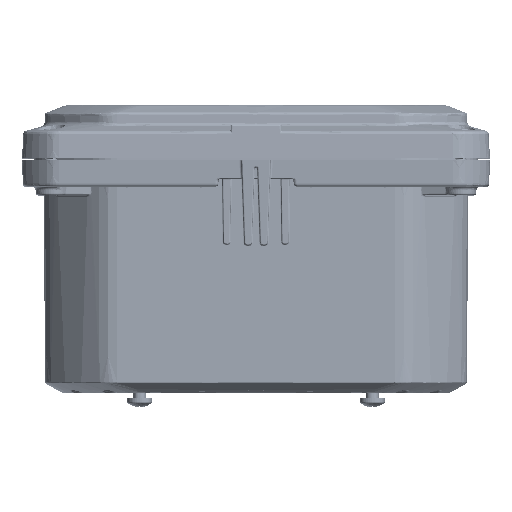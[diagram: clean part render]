
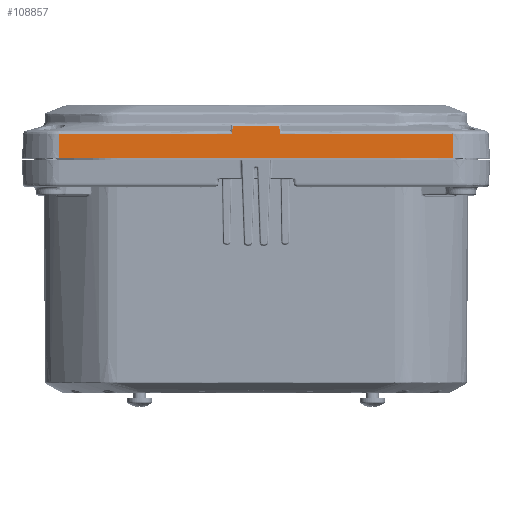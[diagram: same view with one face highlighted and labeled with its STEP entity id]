
A CAD part, top view. The second image highlights one B-rep face of the part: STEP entity #108857.
In plain terms, the highlighted planar face has unit normal (0, 0.052, 0.999).
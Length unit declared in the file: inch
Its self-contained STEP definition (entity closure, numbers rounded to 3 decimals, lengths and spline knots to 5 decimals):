
#3084 = VERTEX_POINT ( 'NONE', #12428 ) ;
#8328 = DIRECTION ( 'NONE',  ( 1., 0., 0. ) ) ;
#8854 = VERTEX_POINT ( 'NONE', #58254 ) ;
#10427 = DIRECTION ( 'NONE',  ( 0., -0.999, 0.052 ) ) ;
#12428 = CARTESIAN_POINT ( 'NONE',  ( -2.95755, 0.36394, 2.50093 ) ) ;
#12579 = B_SPLINE_CURVE_WITH_KNOTS ( 'NONE', 3,
 ( #198560, #166749, #34033, #164643, #167784, #132795, #98827, #100947, #130685, #70114, #36165, #180535, #19186, #197502, #148713 ),
 .UNSPECIFIED., .F., .F.,
 ( 4, 2, 2, 2, 1, 2, 2, 4 ),
 ( 0.00907, 0.0421, 0.05861, 0.06687, 0.07099, 0.07306, 0.07409, 0.07512 ),
 .UNSPECIFIED. ) ;
#17329 = VERTEX_POINT ( 'NONE', #113791 ) ;
#17924 = EDGE_CURVE ( 'NONE', #17329, #205260, #70998, .T. ) ;
#19186 = CARTESIAN_POINT ( 'NONE',  ( -2.93047, 0.36465, 2.50089 ) ) ;
#25170 = CARTESIAN_POINT ( 'NONE',  ( 2.95755, 0.36394, 2.50093 ) ) ;
#26206 = CARTESIAN_POINT ( 'NONE',  ( 2.88984, 0.36465, 2.50089 ) ) ;
#28418 = CARTESIAN_POINT ( 'NONE',  ( 2.95755, 0., 2.52 ) ) ;
#33178 = DIRECTION ( 'NONE',  ( 0., -0.999, 0.052 ) ) ;
#34033 = CARTESIAN_POINT ( 'NONE',  ( -1.22394, 0.36437, 2.5009 ) ) ;
#36165 = CARTESIAN_POINT ( 'NONE',  ( -2.88984, 0.36465, 2.50089 ) ) ;
#36282 = ORIENTED_EDGE ( 'NONE', *, *, #17924, .T. ) ;
#37998 = CARTESIAN_POINT ( 'NONE',  ( 2.8492, 0.36463, 2.50089 ) ) ;
#39021 = CARTESIAN_POINT ( 'NONE',  ( 2.93047, 0.36465, 2.50089 ) ) ;
#40901 = DIRECTION ( 'NONE',  ( 0., 0.052, 0.999 ) ) ;
#41110 = CARTESIAN_POINT ( 'NONE',  ( 2.4158, 0.36442, 2.5009 ) ) ;
#46056 = EDGE_CURVE ( 'NONE', #3084, #17329, #49086, .T. ) ;
#48850 = VECTOR ( 'NONE', #75889, 39.37008 ) ;
#49086 = LINE ( 'NONE', #178635, #118617 ) ;
#51018 = VERTEX_POINT ( 'NONE', #154752 ) ;
#53915 = CARTESIAN_POINT ( 'NONE',  ( 0.35713, 0.36457, 2.50089 ) ) ;
#54442 = EDGE_LOOP ( 'NONE', ( #136887, #108520, #164990, #65063, #158345, #36282, #206008, #144132 ) ) ;
#55358 = CARTESIAN_POINT ( 'NONE',  ( 2.95755, 0., 2.52 ) ) ;
#56848 = PLANE ( 'NONE',  #80620 ) ;
#57876 = CARTESIAN_POINT ( 'NONE',  ( 0.36713, 0.17376, 2.51089 ) ) ;
#58254 = CARTESIAN_POINT ( 'NONE',  ( 0.35128, 0.47631, 2.49504 ) ) ;
#61742 = LINE ( 'NONE', #190223, #97667 ) ;
#63094 = VECTOR ( 'NONE', #141047, 39.37008 ) ;
#65063 = ORIENTED_EDGE ( 'NONE', *, *, #185751, .T. ) ;
#69838 = CARTESIAN_POINT ( 'NONE',  ( 0.79054, 0.36449, 2.5009 ) ) ;
#70114 = CARTESIAN_POINT ( 'NONE',  ( -2.8492, 0.36463, 2.50089 ) ) ;
#70998 = LINE ( 'NONE', #134733, #74768 ) ;
#74768 = VECTOR ( 'NONE', #8328, 39.37008 ) ;
#75889 = DIRECTION ( 'NONE',  ( -0.052, 0.997, -0.052 ) ) ;
#80027 = VERTEX_POINT ( 'NONE', #184344 ) ;
#80620 = AXIS2_PLACEMENT_3D ( 'NONE', #121641, #40901, #138595 ) ;
#87870 = CARTESIAN_POINT ( 'NONE',  ( 1.87405, 0.36433, 2.50091 ) ) ;
#90983 = CARTESIAN_POINT ( 'NONE',  ( 2.76794, 0.36458, 2.50089 ) ) ;
#94676 = DIRECTION ( 'NONE',  ( -0.052, -0.997, 0.052 ) ) ;
#97667 = VECTOR ( 'NONE', #94676, 39.37008 ) ;
#98827 = CARTESIAN_POINT ( 'NONE',  ( -2.52415, 0.36446, 2.5009 ) ) ;
#100947 = CARTESIAN_POINT ( 'NONE',  ( -2.68668, 0.36453, 2.5009 ) ) ;
#106742 = EDGE_CURVE ( 'NONE', #80027, #134661, #202193, .T. ) ;
#108520 = ORIENTED_EDGE ( 'NONE', *, *, #127964, .T. ) ;
#108857 = ADVANCED_FACE ( 'NONE', ( #152439 ), #56848, .T. ) ;
#113791 = CARTESIAN_POINT ( 'NONE',  ( -2.95755, 0., 2.52 ) ) ;
#118617 = VECTOR ( 'NONE', #33178, 39.37008 ) ;
#120671 = EDGE_CURVE ( 'NONE', #134661, #8854, #157637, .T. ) ;
#121641 = CARTESIAN_POINT ( 'NONE',  ( -2.95755, 0., 2.52 ) ) ;
#121842 = CARTESIAN_POINT ( 'NONE',  ( 2.94401, 0.36438, 2.5009 ) ) ;
#125160 = VECTOR ( 'NONE', #10427, 39.37008 ) ;
#126129 = LINE ( 'NONE', #28418, #125160 ) ;
#127964 = EDGE_CURVE ( 'NONE', #8854, #134131, #202611, .T. ) ;
#130685 = CARTESIAN_POINT ( 'NONE',  ( -2.76794, 0.36458, 2.50089 ) ) ;
#132795 = CARTESIAN_POINT ( 'NONE',  ( -2.4158, 0.36442, 2.5009 ) ) ;
#134131 = VERTEX_POINT ( 'NONE', #176970 ) ;
#134661 = VERTEX_POINT ( 'NONE', #173403 ) ;
#134733 = CARTESIAN_POINT ( 'NONE',  ( -2.95755, 0., 2.52 ) ) ;
#136887 = ORIENTED_EDGE ( 'NONE', *, *, #120671, .T. ) ;
#138595 = DIRECTION ( 'NONE',  ( 0., -0.999, 0.052 ) ) ;
#141047 = DIRECTION ( 'NONE',  ( -1., 0., 0. ) ) ;
#144132 = ORIENTED_EDGE ( 'NONE', *, *, #106742, .T. ) ;
#148713 = CARTESIAN_POINT ( 'NONE',  ( -2.95755, 0.36394, 2.50093 ) ) ;
#149612 = EDGE_CURVE ( 'NONE', #134131, #51018, #61742, .T. ) ;
#152439 = FACE_OUTER_BOUND ( 'NONE', #54442, .T. ) ;
#154752 = CARTESIAN_POINT ( 'NONE',  ( -0.35713, 0.36457, 2.50089 ) ) ;
#155758 = CARTESIAN_POINT ( 'NONE',  ( 2.57833, 0.36448, 2.5009 ) ) ;
#157637 = LINE ( 'NONE', #57876, #48850 ) ;
#158015 = CARTESIAN_POINT ( 'NONE',  ( -2.95755, 0.47631, 2.49504 ) ) ;
#158345 = ORIENTED_EDGE ( 'NONE', *, *, #46056, .T. ) ;
#163975 = EDGE_CURVE ( 'NONE', #80027, #205260, #126129, .T. ) ;
#164643 = CARTESIAN_POINT ( 'NONE',  ( -1.87405, 0.36433, 2.50091 ) ) ;
#164990 = ORIENTED_EDGE ( 'NONE', *, *, #149612, .T. ) ;
#166749 = CARTESIAN_POINT ( 'NONE',  ( -0.79054, 0.36449, 2.5009 ) ) ;
#167521 = CARTESIAN_POINT ( 'NONE',  ( 2.09075, 0.36434, 2.50091 ) ) ;
#167784 = CARTESIAN_POINT ( 'NONE',  ( -2.09075, 0.36434, 2.50091 ) ) ;
#171673 = CARTESIAN_POINT ( 'NONE',  ( 2.90338, 0.36469, 2.50089 ) ) ;
#173403 = CARTESIAN_POINT ( 'NONE',  ( 0.35713, 0.36457, 2.50089 ) ) ;
#176970 = CARTESIAN_POINT ( 'NONE',  ( -0.35128, 0.47631, 2.49504 ) ) ;
#178635 = CARTESIAN_POINT ( 'NONE',  ( -2.95755, 0., 2.52 ) ) ;
#180535 = CARTESIAN_POINT ( 'NONE',  ( -2.90338, 0.36469, 2.50089 ) ) ;
#184344 = CARTESIAN_POINT ( 'NONE',  ( 2.95755, 0.36394, 2.50093 ) ) ;
#185751 = EDGE_CURVE ( 'NONE', #51018, #3084, #12579, .T. ) ;
#190223 = CARTESIAN_POINT ( 'NONE',  ( -0.3572, 0.36326, 2.50096 ) ) ;
#197502 = CARTESIAN_POINT ( 'NONE',  ( -2.94401, 0.36438, 2.5009 ) ) ;
#198560 = CARTESIAN_POINT ( 'NONE',  ( -0.35713, 0.36457, 2.50089 ) ) ;
#199331 = CARTESIAN_POINT ( 'NONE',  ( 1.22394, 0.36437, 2.5009 ) ) ;
#202193 = B_SPLINE_CURVE_WITH_KNOTS ( 'NONE', 3,
 ( #25170, #121842, #39021, #171673, #26206, #37998, #90983, #155758, #41110, #167521, #87870, #199331, #69838, #53915 ),
 .UNSPECIFIED., .F., .F.,
 ( 4, 2, 2, 1, 1, 2, 2, 4 ),
 ( 0., 0.00103, 0.00206, 0.00413, 0.00826, 0.01651, 0.03303, 0.06605 ),
 .UNSPECIFIED. ) ;
#202611 = LINE ( 'NONE', #158015, #63094 ) ;
#205260 = VERTEX_POINT ( 'NONE', #55358 ) ;
#206008 = ORIENTED_EDGE ( 'NONE', *, *, #163975, .F. ) ;
